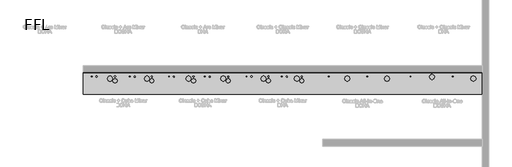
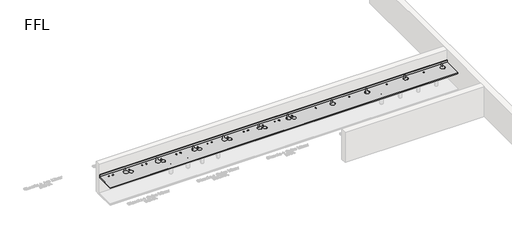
# One storey, part 2 of 13: 1 furniture element.
"""IFC4 building model written with IfcOpenShell, lengths in millimetres."""

from ifc_helpers import new_model, si_unit, frame, origin, place, context, project, spatial, polyline, circle_curve, element, save
from ifc_brep_helpers import plane_surface, revolved_surface, advanced_brep

model = new_model("IFC4")

# Units and contexts
model_context = context("Model", 3, world=origin())
ifc_project = project(units=[si_unit("LENGTHUNIT", "METRE", prefix="MILLI")], contexts=[model_context])

# Site, building, storey
site = spatial("IfcSite", under=ifc_project)
building = spatial("IfcBuilding", under=site)
storey = spatial("IfcBuildingStorey", under=building, Name="FFL", Elevation=0.0)

# Furniture
placement = place(None, origin())
element("IfcFurniture", 1, ObjectType="Counter Top : 900mm Depth", at=placement, inside=storey, context=model_context, shape_type="AdvancedBrep", body=[
    advanced_brep(
    [(-3719.7352929, 948.2393304, 900.0), (12530.2647071, 948.2393304, 900.0), (12530.2647071, 1829.1893304, 900.0), (-3719.7352929, 1829.1893304, 900.0), (-49.7352929, 1675.1893304, 900.0), (-1.7352929, 1675.1893304, 900.0), (-243.2352929, 1679.1893304, 900.0), (-208.2352929, 1679.1893304, 900.0), (749.2647071, 1675.1893304, 900.0), (797.2647071, 1675.1893304, 900.0), (555.7647071, 1679.1893304, 900.0), (590.7647071, 1679.1893304, 900.0), (1410.2647071, 1675.1893304, 900.0), (1458.2647071, 1675.1893304, 900.0), (1216.7647071, 1679.1893304, 900.0), (1251.7647071, 1679.1893304, 900.0), (2160.2647071, 1675.1893304, 900.0), (2208.2647071, 1675.1893304, 900.0), (2116.0647071, 1503.1893304, 900.0), (2252.4647071, 1503.1893304, 900.0), (1966.7647071, 1679.1893304, 900.0), (2001.7647071, 1679.1893304, 900.0), (1916.0647071, 1572.5712903, 900.0), (2052.4647071, 1572.5712903, 900.0), (2915.5968313, 1679.1893304, 900.0), (2950.5968313, 1679.1893304, 900.0), (3109.0968313, 1679.1893304, 900.0), (3157.0968313, 1679.1893304, 900.0), (3606.7647071, 1679.1893304, 900.0), (3641.7647071, 1679.1893304, 900.0), (3556.0647071, 1572.5712903, 900.0), (3692.4647071, 1572.5712903, 900.0), (3800.2647071, 1679.1893304, 900.0), (3848.2647071, 1679.1893304, 900.0), (3756.0647071, 1507.1893304, 900.0), (3892.4647071, 1507.1893304, 900.0), (4356.7647071, 1679.1893304, 900.0), (4391.7647071, 1679.1893304, 900.0), (4550.2647071, 1679.1893304, 900.0), (4598.2647071, 1679.1893304, 900.0), (4966.7647071, 1679.1893304, 900.0), (5001.7647071, 1679.1893304, 900.0), (4916.0647071, 1572.5712903, 900.0), (5052.4647071, 1572.5712903, 900.0), (5160.2647071, 1679.1893304, 900.0), (5208.2647071, 1679.1893304, 900.0), (5116.0647071, 1507.1893304, 900.0), (5252.4647071, 1507.1893304, 900.0), (6269.7647071, 1679.1893304, 900.0), (6304.7647071, 1679.1893304, 900.0), (7019.7647071, 1679.1893304, 900.0), (7054.7647071, 1679.1893304, 900.0), (6969.0647071, 1572.5712903, 900.0), (7105.4647071, 1572.5712903, 900.0), (7836.7647071, 1679.1893304, 900.0), (7871.7647071, 1679.1893304, 900.0), (8635.7647071, 1679.1893304, 900.0), (8670.7647071, 1679.1893304, 900.0), (8585.0647071, 1572.5712903, 900.0), (8721.4647071, 1572.5712903, 900.0), (12156.7647071, 1679.1893304, 900.0), (12191.7647071, 1679.1893304, 900.0), (12106.0647071, 1572.5712903, 900.0), (12242.4647071, 1572.5712903, 900.0), (11315.7647071, 1679.1893304, 900.0), (11350.7647071, 1679.1893304, 900.0), (10467.7647071, 1745.6893304, 900.0), (10502.7647071, 1745.6893304, 900.0), (10417.0647071, 1639.0712903, 900.0), (10553.4647071, 1639.0712903, 900.0), (9595.7647071, 1679.1893304, 900.0), (9630.7647071, 1679.1893304, 900.0), (-3393.2352929, 1679.1893304, 900.0), (-3358.2352929, 1679.1893304, 900.0), (-3199.7352929, 1679.1893304, 900.0), (-3151.7352929, 1679.1893304, 900.0), (-2643.2352929, 1676.4547841, 900.0), (-2608.2352929, 1676.4547841, 900.0), (-2693.9352929, 1569.8367441, 900.0), (-2557.5352929, 1569.8367441, 900.0), (-2449.7352929, 1676.4547841, 900.0), (-2401.7352929, 1676.4547841, 900.0), (-2493.9352929, 1504.4547841, 900.0), (-2357.5352929, 1504.4547841, 900.0), (-1837.2352929, 1679.1893304, 900.0), (-1802.2352929, 1679.1893304, 900.0), (-1143.2352929, 1679.1893304, 900.0), (-1108.2352929, 1679.1893304, 900.0), (-1193.9352929, 1572.5712903, 900.0), (-1057.5352929, 1572.5712903, 900.0), (-949.7352929, 1679.1893304, 900.0), (-901.7352929, 1679.1893304, 900.0), (-993.9352929, 1507.1893304, 900.0), (-857.5352929, 1507.1893304, 900.0), (505.0647071, 1572.5712903, 900.0), (641.4647071, 1572.5712903, 900.0), (705.0647071, 1503.1893304, 900.0), (841.4647071, 1503.1893304, 900.0), (-1643.7352929, 1679.1893304, 900.0), (-1595.7352929, 1679.1893304, 900.0), (12530.2647071, 1848.2393304, 860.0), (12530.2647071, 948.2393304, 860.0), (-3719.7352929, 948.2393304, 860.0), (-3719.7352929, 1848.2393304, 860.0), (-1.7352929, 1675.1893304, 860.0), (-49.7352929, 1675.1893304, 860.0), (-208.2352929, 1679.1893304, 860.0), (-243.2352929, 1679.1893304, 860.0), (797.2647071, 1675.1893304, 860.0), (749.2647071, 1675.1893304, 860.0), (590.7647071, 1679.1893304, 860.0), (555.7647071, 1679.1893304, 860.0), (1458.2647071, 1675.1893304, 860.0), (1410.2647071, 1675.1893304, 860.0), (1251.7647071, 1679.1893304, 860.0), (1216.7647071, 1679.1893304, 860.0), (2208.2647071, 1675.1893304, 860.0), (2160.2647071, 1675.1893304, 860.0), (2252.4647071, 1503.1893304, 860.0), (2116.0647071, 1503.1893304, 860.0), (2001.7647071, 1679.1893304, 860.0), (1966.7647071, 1679.1893304, 860.0), (2052.4647071, 1572.5712903, 860.0), (1916.0647071, 1572.5712903, 860.0), (2950.5968313, 1679.1893304, 860.0), (2915.5968313, 1679.1893304, 860.0), (3157.0968313, 1679.1893304, 860.0), (3109.0968313, 1679.1893304, 860.0), (3641.7647071, 1679.1893304, 860.0), (3606.7647071, 1679.1893304, 860.0), (3692.4647071, 1572.5712903, 860.0), (3556.0647071, 1572.5712903, 860.0), (3848.2647071, 1679.1893304, 860.0), (3800.2647071, 1679.1893304, 860.0), (3892.4647071, 1507.1893304, 860.0), (3756.0647071, 1507.1893304, 860.0), (4391.7647071, 1679.1893304, 860.0), (4356.7647071, 1679.1893304, 860.0), (4598.2647071, 1679.1893304, 860.0), (4550.2647071, 1679.1893304, 860.0), (5001.7647071, 1679.1893304, 860.0), (4966.7647071, 1679.1893304, 860.0), (5052.4647071, 1572.5712903, 860.0), (4916.0647071, 1572.5712903, 860.0), (5208.2647071, 1679.1893304, 860.0), (5160.2647071, 1679.1893304, 860.0), (5252.4647071, 1507.1893304, 860.0), (5116.0647071, 1507.1893304, 860.0), (6304.7647071, 1679.1893304, 860.0), (6269.7647071, 1679.1893304, 860.0), (7054.7647071, 1679.1893304, 860.0), (7019.7647071, 1679.1893304, 860.0), (7105.4647071, 1572.5712903, 860.0), (6969.0647071, 1572.5712903, 860.0), (7871.7647071, 1679.1893304, 860.0), (7836.7647071, 1679.1893304, 860.0), (8670.7647071, 1679.1893304, 860.0), (8635.7647071, 1679.1893304, 860.0), (8721.4647071, 1572.5712903, 860.0), (8585.0647071, 1572.5712903, 860.0), (12191.7647071, 1679.1893304, 860.0), (12156.7647071, 1679.1893304, 860.0), (12242.4647071, 1572.5712903, 860.0), (12106.0647071, 1572.5712903, 860.0), (11350.7647071, 1679.1893304, 860.0), (11315.7647071, 1679.1893304, 860.0), (10502.7647071, 1745.6893304, 860.0), (10467.7647071, 1745.6893304, 860.0), (10553.4647071, 1639.0712903, 860.0), (10417.0647071, 1639.0712903, 860.0), (9630.7647071, 1679.1893304, 860.0), (9595.7647071, 1679.1893304, 860.0), (-3358.2352929, 1679.1893304, 860.0), (-3393.2352929, 1679.1893304, 860.0), (-3151.7352929, 1679.1893304, 860.0), (-3199.7352929, 1679.1893304, 860.0), (-2608.2352929, 1676.4547841, 860.0), (-2643.2352929, 1676.4547841, 860.0), (-2557.5352929, 1569.8367441, 860.0), (-2693.9352929, 1569.8367441, 860.0), (-2401.7352929, 1676.4547841, 860.0), (-2449.7352929, 1676.4547841, 860.0), (-2357.5352929, 1504.4547841, 860.0), (-2493.9352929, 1504.4547841, 860.0), (-1802.2352929, 1679.1893304, 860.0), (-1837.2352929, 1679.1893304, 860.0), (-1108.2352929, 1679.1893304, 860.0), (-1143.2352929, 1679.1893304, 860.0), (-1057.5352929, 1572.5712903, 860.0), (-1193.9352929, 1572.5712903, 860.0), (-901.7352929, 1679.1893304, 860.0), (-949.7352929, 1679.1893304, 860.0), (-857.5352929, 1507.1893304, 860.0), (-993.9352929, 1507.1893304, 860.0), (641.4647071, 1572.5712903, 860.0), (505.0647071, 1572.5712903, 860.0), (841.4647071, 1503.1893304, 860.0), (705.0647071, 1503.1893304, 860.0), (-1595.7352929, 1679.1893304, 860.0), (-1643.7352929, 1679.1893304, 860.0), (-3719.7352929, 1848.2393304, 1001.6), (12530.2647071, 1848.2393304, 1001.6), (-3719.7352929, 1829.1893304, 1001.6), (12530.2647071, 1829.1893304, 1001.6)],
    [
        (0, 1),
        (1, 2),
        (2, 3),
        (3, 0),
        (4, 5, circle_curve(frame((-25.7352929, 1675.1893304, 900.0), z_axis=(0.0, 0.0, -1.0), x_axis=(-1.0, 0.0, 0.0)), 24.0)),
        (5, 4, circle_curve(frame((-25.7352929, 1675.1893304, 900.0), z_axis=(0.0, 0.0, -1.0), x_axis=(-1.0, 0.0, 0.0)), 24.0)),
        (6, 7, circle_curve(frame((-225.7352929, 1679.1893304, 900.0), z_axis=(0.0, 0.0, -1.0), x_axis=(-1.0, 0.0, 0.0)), 17.5)),
        (7, 6, circle_curve(frame((-225.7352929, 1679.1893304, 900.0), z_axis=(0.0, 0.0, -1.0), x_axis=(-1.0, 0.0, 0.0)), 17.5)),
        (8, 9, circle_curve(frame((773.2647071, 1675.1893304, 900.0), z_axis=(0.0, 0.0, -1.0), x_axis=(-1.0, 0.0, 0.0)), 24.0)),
        (9, 8, circle_curve(frame((773.2647071, 1675.1893304, 900.0), z_axis=(0.0, 0.0, -1.0), x_axis=(-1.0, 0.0, 0.0)), 24.0)),
        (10, 11, circle_curve(frame((573.2647071, 1679.1893304, 900.0), z_axis=(0.0, 0.0, -1.0), x_axis=(-1.0, 0.0, 0.0)), 17.5)),
        (11, 10, circle_curve(frame((573.2647071, 1679.1893304, 900.0), z_axis=(0.0, 0.0, -1.0), x_axis=(-1.0, 0.0, 0.0)), 17.5)),
        (12, 13, circle_curve(frame((1434.2647071, 1675.1893304, 900.0), z_axis=(0.0, 0.0, -1.0), x_axis=(-1.0, 0.0, 0.0)), 24.0)),
        (13, 12, circle_curve(frame((1434.2647071, 1675.1893304, 900.0), z_axis=(0.0, 0.0, -1.0), x_axis=(-1.0, 0.0, 0.0)), 24.0)),
        (14, 15, circle_curve(frame((1234.2647071, 1679.1893304, 900.0), z_axis=(0.0, 0.0, -1.0), x_axis=(-1.0, 0.0, 0.0)), 17.5)),
        (15, 14, circle_curve(frame((1234.2647071, 1679.1893304, 900.0), z_axis=(0.0, 0.0, -1.0), x_axis=(-1.0, 0.0, 0.0)), 17.5)),
        (16, 17, circle_curve(frame((2184.2647071, 1675.1893304, 900.0), z_axis=(0.0, 0.0, -1.0), x_axis=(-1.0, 0.0, 0.0)), 24.0)),
        (17, 16, circle_curve(frame((2184.2647071, 1675.1893304, 900.0), z_axis=(0.0, 0.0, -1.0), x_axis=(-1.0, 0.0, 0.0)), 24.0)),
        (18, 19, circle_curve(frame((2184.2647071, 1503.1893304, 900.0), z_axis=(0.0, 0.0, -1.0), x_axis=(-1.0, 0.0, 0.0)), 68.2)),
        (19, 18, circle_curve(frame((2184.2647071, 1503.1893304, 900.0), z_axis=(0.0, 0.0, -1.0), x_axis=(-1.0, 0.0, 0.0)), 68.2)),
        (20, 21, circle_curve(frame((1984.2647071, 1679.1893304, 900.0), z_axis=(0.0, 0.0, -1.0), x_axis=(-1.0, 0.0, 0.0)), 17.5)),
        (21, 20, circle_curve(frame((1984.2647071, 1679.1893304, 900.0), z_axis=(0.0, 0.0, -1.0), x_axis=(-1.0, 0.0, 0.0)), 17.5)),
        (22, 23, circle_curve(frame((1984.2647071, 1572.5712903, 900.0), z_axis=(0.0, 0.0, -1.0), x_axis=(-1.0, 0.0, 0.0)), 68.2)),
        (23, 22, circle_curve(frame((1984.2647071, 1572.5712903, 900.0), z_axis=(0.0, 0.0, -1.0), x_axis=(-1.0, 0.0, 0.0)), 68.2)),
        (24, 25, circle_curve(frame((2933.0968313, 1679.1893304, 900.0), z_axis=(0.0, 0.0, -1.0), x_axis=(-1.0, 0.0, 0.0)), 17.5)),
        (25, 24, circle_curve(frame((2933.0968313, 1679.1893304, 900.0), z_axis=(0.0, 0.0, -1.0), x_axis=(-1.0, 0.0, 0.0)), 17.5)),
        (26, 27, circle_curve(frame((3133.0968313, 1679.1893304, 900.0), z_axis=(0.0, 0.0, -1.0), x_axis=(-1.0, 0.0, 0.0)), 24.0)),
        (27, 26, circle_curve(frame((3133.0968313, 1679.1893304, 900.0), z_axis=(0.0, 0.0, -1.0), x_axis=(-1.0, 0.0, 0.0)), 24.0)),
        (28, 29, circle_curve(frame((3624.2647071, 1679.1893304, 900.0), z_axis=(0.0, 0.0, -1.0), x_axis=(-1.0, 0.0, 0.0)), 17.5)),
        (29, 28, circle_curve(frame((3624.2647071, 1679.1893304, 900.0), z_axis=(0.0, 0.0, -1.0), x_axis=(-1.0, 0.0, 0.0)), 17.5)),
        (30, 31, circle_curve(frame((3624.2647071, 1572.5712903, 900.0), z_axis=(0.0, 0.0, -1.0), x_axis=(-1.0, 0.0, 0.0)), 68.2)),
        (31, 30, circle_curve(frame((3624.2647071, 1572.5712903, 900.0), z_axis=(0.0, 0.0, -1.0), x_axis=(-1.0, 0.0, 0.0)), 68.2)),
        (32, 33, circle_curve(frame((3824.2647071, 1679.1893304, 900.0), z_axis=(0.0, 0.0, -1.0), x_axis=(-1.0, 0.0, 0.0)), 24.0)),
        (33, 32, circle_curve(frame((3824.2647071, 1679.1893304, 900.0), z_axis=(0.0, 0.0, -1.0), x_axis=(-1.0, 0.0, 0.0)), 24.0)),
        (34, 35, circle_curve(frame((3824.2647071, 1507.1893304, 900.0), z_axis=(0.0, 0.0, -1.0), x_axis=(-1.0, 0.0, 0.0)), 68.2)),
        (35, 34, circle_curve(frame((3824.2647071, 1507.1893304, 900.0), z_axis=(0.0, 0.0, -1.0), x_axis=(-1.0, 0.0, 0.0)), 68.2)),
        (36, 37, circle_curve(frame((4374.2647071, 1679.1893304, 900.0), z_axis=(0.0, 0.0, -1.0), x_axis=(-1.0, 0.0, 0.0)), 17.5)),
        (37, 36, circle_curve(frame((4374.2647071, 1679.1893304, 900.0), z_axis=(0.0, 0.0, -1.0), x_axis=(-1.0, 0.0, 0.0)), 17.5)),
        (38, 39, circle_curve(frame((4574.2647071, 1679.1893304, 900.0), z_axis=(0.0, 0.0, -1.0), x_axis=(-1.0, 0.0, 0.0)), 24.0)),
        (39, 38, circle_curve(frame((4574.2647071, 1679.1893304, 900.0), z_axis=(0.0, 0.0, -1.0), x_axis=(-1.0, 0.0, 0.0)), 24.0)),
        (40, 41, circle_curve(frame((4984.2647071, 1679.1893304, 900.0), z_axis=(0.0, 0.0, -1.0), x_axis=(-1.0, 0.0, 0.0)), 17.5)),
        (41, 40, circle_curve(frame((4984.2647071, 1679.1893304, 900.0), z_axis=(0.0, 0.0, -1.0), x_axis=(-1.0, 0.0, 0.0)), 17.5)),
        (42, 43, circle_curve(frame((4984.2647071, 1572.5712903, 900.0), z_axis=(0.0, 0.0, -1.0), x_axis=(-1.0, 0.0, 0.0)), 68.2)),
        (43, 42, circle_curve(frame((4984.2647071, 1572.5712903, 900.0), z_axis=(0.0, 0.0, -1.0), x_axis=(-1.0, 0.0, 0.0)), 68.2)),
        (44, 45, circle_curve(frame((5184.2647071, 1679.1893304, 900.0), z_axis=(0.0, 0.0, -1.0), x_axis=(-1.0, 0.0, 0.0)), 24.0)),
        (45, 44, circle_curve(frame((5184.2647071, 1679.1893304, 900.0), z_axis=(0.0, 0.0, -1.0), x_axis=(-1.0, 0.0, 0.0)), 24.0)),
        (46, 47, circle_curve(frame((5184.2647071, 1507.1893304, 900.0), z_axis=(0.0, 0.0, -1.0), x_axis=(-1.0, 0.0, 0.0)), 68.2)),
        (47, 46, circle_curve(frame((5184.2647071, 1507.1893304, 900.0), z_axis=(0.0, 0.0, -1.0), x_axis=(-1.0, 0.0, 0.0)), 68.2)),
        (48, 49, circle_curve(frame((6287.2647071, 1679.1893304, 900.0), z_axis=(0.0, 0.0, -1.0), x_axis=(-1.0, 0.0, 0.0)), 17.5)),
        (49, 48, circle_curve(frame((6287.2647071, 1679.1893304, 900.0), z_axis=(0.0, 0.0, -1.0), x_axis=(-1.0, 0.0, 0.0)), 17.5)),
        (50, 51, circle_curve(frame((7037.2647071, 1679.1893304, 900.0), z_axis=(0.0, 0.0, -1.0), x_axis=(-1.0, 0.0, 0.0)), 17.5)),
        (51, 50, circle_curve(frame((7037.2647071, 1679.1893304, 900.0), z_axis=(0.0, 0.0, -1.0), x_axis=(-1.0, 0.0, 0.0)), 17.5)),
        (52, 53, circle_curve(frame((7037.2647071, 1572.5712903, 900.0), z_axis=(0.0, 0.0, -1.0), x_axis=(-1.0, 0.0, 0.0)), 68.2)),
        (53, 52, circle_curve(frame((7037.2647071, 1572.5712903, 900.0), z_axis=(0.0, 0.0, -1.0), x_axis=(-1.0, 0.0, 0.0)), 68.2)),
        (54, 55, circle_curve(frame((7854.2647071, 1679.1893304, 900.0), z_axis=(0.0, 0.0, -1.0), x_axis=(-1.0, 0.0, 0.0)), 17.5)),
        (55, 54, circle_curve(frame((7854.2647071, 1679.1893304, 900.0), z_axis=(0.0, 0.0, -1.0), x_axis=(-1.0, 0.0, 0.0)), 17.5)),
        (56, 57, circle_curve(frame((8653.2647071, 1679.1893304, 900.0), z_axis=(0.0, 0.0, -1.0), x_axis=(-1.0, 0.0, 0.0)), 17.5)),
        (57, 56, circle_curve(frame((8653.2647071, 1679.1893304, 900.0), z_axis=(0.0, 0.0, -1.0), x_axis=(-1.0, 0.0, 0.0)), 17.5)),
        (58, 59, circle_curve(frame((8653.2647071, 1572.5712903, 900.0), z_axis=(0.0, 0.0, -1.0), x_axis=(-1.0, 0.0, 0.0)), 68.2)),
        (59, 58, circle_curve(frame((8653.2647071, 1572.5712903, 900.0), z_axis=(0.0, 0.0, -1.0), x_axis=(-1.0, 0.0, 0.0)), 68.2)),
        (60, 61, circle_curve(frame((12174.2647071, 1679.1893304, 900.0), z_axis=(0.0, 0.0, -1.0), x_axis=(-1.0, 0.0, 0.0)), 17.5)),
        (61, 60, circle_curve(frame((12174.2647071, 1679.1893304, 900.0), z_axis=(0.0, 0.0, -1.0), x_axis=(-1.0, 0.0, 0.0)), 17.5)),
        (62, 63, circle_curve(frame((12174.2647071, 1572.5712903, 900.0), z_axis=(0.0, 0.0, -1.0), x_axis=(-1.0, 0.0, 0.0)), 68.2)),
        (63, 62, circle_curve(frame((12174.2647071, 1572.5712903, 900.0), z_axis=(0.0, 0.0, -1.0), x_axis=(-1.0, 0.0, 0.0)), 68.2)),
        (64, 65, circle_curve(frame((11333.2647071, 1679.1893304, 900.0), z_axis=(0.0, 0.0, -1.0), x_axis=(-1.0, 0.0, 0.0)), 17.5)),
        (65, 64, circle_curve(frame((11333.2647071, 1679.1893304, 900.0), z_axis=(0.0, 0.0, -1.0), x_axis=(-1.0, 0.0, 0.0)), 17.5)),
        (66, 67, circle_curve(frame((10485.2647071, 1745.6893304, 900.0), z_axis=(0.0, 0.0, -1.0), x_axis=(-1.0, 0.0, 0.0)), 17.5)),
        (67, 66, circle_curve(frame((10485.2647071, 1745.6893304, 900.0), z_axis=(0.0, 0.0, -1.0), x_axis=(-1.0, 0.0, 0.0)), 17.5)),
        (68, 69, circle_curve(frame((10485.2647071, 1639.0712903, 900.0), z_axis=(0.0, 0.0, -1.0), x_axis=(-1.0, 0.0, 0.0)), 68.2)),
        (69, 68, circle_curve(frame((10485.2647071, 1639.0712903, 900.0), z_axis=(0.0, 0.0, -1.0), x_axis=(-1.0, 0.0, 0.0)), 68.2)),
        (70, 71, circle_curve(frame((9613.2647071, 1679.1893304, 900.0), z_axis=(0.0, 0.0, -1.0), x_axis=(-1.0, 0.0, 0.0)), 17.5)),
        (71, 70, circle_curve(frame((9613.2647071, 1679.1893304, 900.0), z_axis=(0.0, 0.0, -1.0), x_axis=(-1.0, 0.0, 0.0)), 17.5)),
        (72, 73, circle_curve(frame((-3375.7352929, 1679.1893304, 900.0), z_axis=(0.0, 0.0, -1.0), x_axis=(-1.0, 0.0, 0.0)), 17.5)),
        (73, 72, circle_curve(frame((-3375.7352929, 1679.1893304, 900.0), z_axis=(0.0, 0.0, -1.0), x_axis=(-1.0, 0.0, 0.0)), 17.5)),
        (74, 75, circle_curve(frame((-3175.7352929, 1679.1893304, 900.0), z_axis=(0.0, 0.0, -1.0), x_axis=(-1.0, 0.0, 0.0)), 24.0)),
        (75, 74, circle_curve(frame((-3175.7352929, 1679.1893304, 900.0), z_axis=(0.0, 0.0, -1.0), x_axis=(-1.0, 0.0, 0.0)), 24.0)),
        (76, 77, circle_curve(frame((-2625.7352929, 1676.4547841, 900.0), z_axis=(0.0, 0.0, -1.0), x_axis=(-1.0, 0.0, 0.0)), 17.5)),
        (77, 76, circle_curve(frame((-2625.7352929, 1676.4547841, 900.0), z_axis=(0.0, 0.0, -1.0), x_axis=(-1.0, 0.0, 0.0)), 17.5)),
        (78, 79, circle_curve(frame((-2625.7352929, 1569.8367441, 900.0), z_axis=(0.0, 0.0, -1.0), x_axis=(-1.0, 0.0, 0.0)), 68.2)),
        (79, 78, circle_curve(frame((-2625.7352929, 1569.8367441, 900.0), z_axis=(0.0, 0.0, -1.0), x_axis=(-1.0, 0.0, 0.0)), 68.2)),
        (80, 81, circle_curve(frame((-2425.7352929, 1676.4547841, 900.0), z_axis=(0.0, 0.0, -1.0), x_axis=(-1.0, 0.0, 0.0)), 24.0)),
        (81, 80, circle_curve(frame((-2425.7352929, 1676.4547841, 900.0), z_axis=(0.0, 0.0, -1.0), x_axis=(-1.0, 0.0, 0.0)), 24.0)),
        (82, 83, circle_curve(frame((-2425.7352929, 1504.4547841, 900.0), z_axis=(0.0, 0.0, -1.0), x_axis=(-1.0, 0.0, 0.0)), 68.2)),
        (83, 82, circle_curve(frame((-2425.7352929, 1504.4547841, 900.0), z_axis=(0.0, 0.0, -1.0), x_axis=(-1.0, 0.0, 0.0)), 68.2)),
        (84, 85, circle_curve(frame((-1819.7352929, 1679.1893304, 900.0), z_axis=(0.0, 0.0, -1.0), x_axis=(-1.0, 0.0, 0.0)), 17.5)),
        (85, 84, circle_curve(frame((-1819.7352929, 1679.1893304, 900.0), z_axis=(0.0, 0.0, -1.0), x_axis=(-1.0, 0.0, 0.0)), 17.5)),
        (86, 87, circle_curve(frame((-1125.7352929, 1679.1893304, 900.0), z_axis=(0.0, 0.0, -1.0), x_axis=(-1.0, 0.0, 0.0)), 17.5)),
        (87, 86, circle_curve(frame((-1125.7352929, 1679.1893304, 900.0), z_axis=(0.0, 0.0, -1.0), x_axis=(-1.0, 0.0, 0.0)), 17.5)),
        (88, 89, circle_curve(frame((-1125.7352929, 1572.5712903, 900.0), z_axis=(0.0, 0.0, -1.0), x_axis=(-1.0, 0.0, 0.0)), 68.2)),
        (89, 88, circle_curve(frame((-1125.7352929, 1572.5712903, 900.0), z_axis=(0.0, 0.0, -1.0), x_axis=(-1.0, 0.0, 0.0)), 68.2)),
        (90, 91, circle_curve(frame((-925.7352929, 1679.1893304, 900.0), z_axis=(0.0, 0.0, -1.0), x_axis=(-1.0, 0.0, 0.0)), 24.0)),
        (91, 90, circle_curve(frame((-925.7352929, 1679.1893304, 900.0), z_axis=(0.0, 0.0, -1.0), x_axis=(-1.0, 0.0, 0.0)), 24.0)),
        (92, 93, circle_curve(frame((-925.7352929, 1507.1893304, 900.0), z_axis=(0.0, 0.0, -1.0), x_axis=(-1.0, 0.0, 0.0)), 68.2)),
        (93, 92, circle_curve(frame((-925.7352929, 1507.1893304, 900.0), z_axis=(0.0, 0.0, -1.0), x_axis=(-1.0, 0.0, 0.0)), 68.2)),
        (94, 95, circle_curve(frame((573.2647071, 1572.5712903, 900.0), z_axis=(0.0, 0.0, -1.0), x_axis=(-1.0, 0.0, 0.0)), 68.2)),
        (95, 94, circle_curve(frame((573.2647071, 1572.5712903, 900.0), z_axis=(0.0, 0.0, -1.0), x_axis=(-1.0, 0.0, 0.0)), 68.2)),
        (96, 97, circle_curve(frame((773.2647071, 1503.1893304, 900.0), z_axis=(0.0, 0.0, -1.0), x_axis=(-1.0, 0.0, 0.0)), 68.2)),
        (97, 96, circle_curve(frame((773.2647071, 1503.1893304, 900.0), z_axis=(0.0, 0.0, -1.0), x_axis=(-1.0, 0.0, 0.0)), 68.2)),
        (98, 99, circle_curve(frame((-1619.7352929, 1679.1893304, 900.0), z_axis=(0.0, 0.0, -1.0), x_axis=(-1.0, 0.0, 0.0)), 24.0)),
        (99, 98, circle_curve(frame((-1619.7352929, 1679.1893304, 900.0), z_axis=(0.0, 0.0, -1.0), x_axis=(-1.0, 0.0, 0.0)), 24.0)),
        (100, 101),
        (101, 102),
        (102, 103),
        (103, 100),
        (104, 105, circle_curve(frame((-25.7352929, 1675.1893304, 860.0), z_axis=(0.0, 0.0, 1.0), x_axis=(-1.0, 0.0, 0.0)), 24.0)),
        (105, 104, circle_curve(frame((-25.7352929, 1675.1893304, 860.0), z_axis=(0.0, 0.0, 1.0), x_axis=(-1.0, 0.0, 0.0)), 24.0)),
        (106, 107, circle_curve(frame((-225.7352929, 1679.1893304, 860.0), z_axis=(0.0, 0.0, 1.0), x_axis=(-1.0, 0.0, 0.0)), 17.5)),
        (107, 106, circle_curve(frame((-225.7352929, 1679.1893304, 860.0), z_axis=(0.0, 0.0, 1.0), x_axis=(-1.0, 0.0, 0.0)), 17.5)),
        (108, 109, circle_curve(frame((773.2647071, 1675.1893304, 860.0), z_axis=(0.0, 0.0, 1.0), x_axis=(-1.0, 0.0, 0.0)), 24.0)),
        (109, 108, circle_curve(frame((773.2647071, 1675.1893304, 860.0), z_axis=(0.0, 0.0, 1.0), x_axis=(-1.0, 0.0, 0.0)), 24.0)),
        (110, 111, circle_curve(frame((573.2647071, 1679.1893304, 860.0), z_axis=(0.0, 0.0, 1.0), x_axis=(-1.0, 0.0, 0.0)), 17.5)),
        (111, 110, circle_curve(frame((573.2647071, 1679.1893304, 860.0), z_axis=(0.0, 0.0, 1.0), x_axis=(-1.0, 0.0, 0.0)), 17.5)),
        (112, 113, circle_curve(frame((1434.2647071, 1675.1893304, 860.0), z_axis=(0.0, 0.0, 1.0), x_axis=(-1.0, 0.0, 0.0)), 24.0)),
        (113, 112, circle_curve(frame((1434.2647071, 1675.1893304, 860.0), z_axis=(0.0, 0.0, 1.0), x_axis=(-1.0, 0.0, 0.0)), 24.0)),
        (114, 115, circle_curve(frame((1234.2647071, 1679.1893304, 860.0), z_axis=(0.0, 0.0, 1.0), x_axis=(-1.0, 0.0, 0.0)), 17.5)),
        (115, 114, circle_curve(frame((1234.2647071, 1679.1893304, 860.0), z_axis=(0.0, 0.0, 1.0), x_axis=(-1.0, 0.0, 0.0)), 17.5)),
        (116, 117, circle_curve(frame((2184.2647071, 1675.1893304, 860.0), z_axis=(0.0, 0.0, 1.0), x_axis=(-1.0, 0.0, 0.0)), 24.0)),
        (117, 116, circle_curve(frame((2184.2647071, 1675.1893304, 860.0), z_axis=(0.0, 0.0, 1.0), x_axis=(-1.0, 0.0, 0.0)), 24.0)),
        (118, 119, circle_curve(frame((2184.2647071, 1503.1893304, 860.0), z_axis=(0.0, 0.0, 1.0), x_axis=(-1.0, 0.0, 0.0)), 68.2)),
        (119, 118, circle_curve(frame((2184.2647071, 1503.1893304, 860.0), z_axis=(0.0, 0.0, 1.0), x_axis=(-1.0, 0.0, 0.0)), 68.2)),
        (120, 121, circle_curve(frame((1984.2647071, 1679.1893304, 860.0), z_axis=(0.0, 0.0, 1.0), x_axis=(-1.0, 0.0, 0.0)), 17.5)),
        (121, 120, circle_curve(frame((1984.2647071, 1679.1893304, 860.0), z_axis=(0.0, 0.0, 1.0), x_axis=(-1.0, 0.0, 0.0)), 17.5)),
        (122, 123, circle_curve(frame((1984.2647071, 1572.5712903, 860.0), z_axis=(0.0, 0.0, 1.0), x_axis=(-1.0, 0.0, 0.0)), 68.2)),
        (123, 122, circle_curve(frame((1984.2647071, 1572.5712903, 860.0), z_axis=(0.0, 0.0, 1.0), x_axis=(-1.0, 0.0, 0.0)), 68.2)),
        (124, 125, circle_curve(frame((2933.0968313, 1679.1893304, 860.0), z_axis=(0.0, 0.0, 1.0), x_axis=(-1.0, 0.0, 0.0)), 17.5)),
        (125, 124, circle_curve(frame((2933.0968313, 1679.1893304, 860.0), z_axis=(0.0, 0.0, 1.0), x_axis=(-1.0, 0.0, 0.0)), 17.5)),
        (126, 127, circle_curve(frame((3133.0968313, 1679.1893304, 860.0), z_axis=(0.0, 0.0, 1.0), x_axis=(-1.0, 0.0, 0.0)), 24.0)),
        (127, 126, circle_curve(frame((3133.0968313, 1679.1893304, 860.0), z_axis=(0.0, 0.0, 1.0), x_axis=(-1.0, 0.0, 0.0)), 24.0)),
        (128, 129, circle_curve(frame((3624.2647071, 1679.1893304, 860.0), z_axis=(0.0, 0.0, 1.0), x_axis=(-1.0, 0.0, 0.0)), 17.5)),
        (129, 128, circle_curve(frame((3624.2647071, 1679.1893304, 860.0), z_axis=(0.0, 0.0, 1.0), x_axis=(-1.0, 0.0, 0.0)), 17.5)),
        (130, 131, circle_curve(frame((3624.2647071, 1572.5712903, 860.0), z_axis=(0.0, 0.0, 1.0), x_axis=(-1.0, 0.0, 0.0)), 68.2)),
        (131, 130, circle_curve(frame((3624.2647071, 1572.5712903, 860.0), z_axis=(0.0, 0.0, 1.0), x_axis=(-1.0, 0.0, 0.0)), 68.2)),
        (132, 133, circle_curve(frame((3824.2647071, 1679.1893304, 860.0), z_axis=(0.0, 0.0, 1.0), x_axis=(-1.0, 0.0, 0.0)), 24.0)),
        (133, 132, circle_curve(frame((3824.2647071, 1679.1893304, 860.0), z_axis=(0.0, 0.0, 1.0), x_axis=(-1.0, 0.0, 0.0)), 24.0)),
        (134, 135, circle_curve(frame((3824.2647071, 1507.1893304, 860.0), z_axis=(0.0, 0.0, 1.0), x_axis=(-1.0, 0.0, 0.0)), 68.2)),
        (135, 134, circle_curve(frame((3824.2647071, 1507.1893304, 860.0), z_axis=(0.0, 0.0, 1.0), x_axis=(-1.0, 0.0, 0.0)), 68.2)),
        (136, 137, circle_curve(frame((4374.2647071, 1679.1893304, 860.0), z_axis=(0.0, 0.0, 1.0), x_axis=(-1.0, 0.0, 0.0)), 17.5)),
        (137, 136, circle_curve(frame((4374.2647071, 1679.1893304, 860.0), z_axis=(0.0, 0.0, 1.0), x_axis=(-1.0, 0.0, 0.0)), 17.5)),
        (138, 139, circle_curve(frame((4574.2647071, 1679.1893304, 860.0), z_axis=(0.0, 0.0, 1.0), x_axis=(-1.0, 0.0, 0.0)), 24.0)),
        (139, 138, circle_curve(frame((4574.2647071, 1679.1893304, 860.0), z_axis=(0.0, 0.0, 1.0), x_axis=(-1.0, 0.0, 0.0)), 24.0)),
        (140, 141, circle_curve(frame((4984.2647071, 1679.1893304, 860.0), z_axis=(0.0, 0.0, 1.0), x_axis=(-1.0, 0.0, 0.0)), 17.5)),
        (141, 140, circle_curve(frame((4984.2647071, 1679.1893304, 860.0), z_axis=(0.0, 0.0, 1.0), x_axis=(-1.0, 0.0, 0.0)), 17.5)),
        (142, 143, circle_curve(frame((4984.2647071, 1572.5712903, 860.0), z_axis=(0.0, 0.0, 1.0), x_axis=(-1.0, 0.0, 0.0)), 68.2)),
        (143, 142, circle_curve(frame((4984.2647071, 1572.5712903, 860.0), z_axis=(0.0, 0.0, 1.0), x_axis=(-1.0, 0.0, 0.0)), 68.2)),
        (144, 145, circle_curve(frame((5184.2647071, 1679.1893304, 860.0), z_axis=(0.0, 0.0, 1.0), x_axis=(-1.0, 0.0, 0.0)), 24.0)),
        (145, 144, circle_curve(frame((5184.2647071, 1679.1893304, 860.0), z_axis=(0.0, 0.0, 1.0), x_axis=(-1.0, 0.0, 0.0)), 24.0)),
        (146, 147, circle_curve(frame((5184.2647071, 1507.1893304, 860.0), z_axis=(0.0, 0.0, 1.0), x_axis=(-1.0, 0.0, 0.0)), 68.2)),
        (147, 146, circle_curve(frame((5184.2647071, 1507.1893304, 860.0), z_axis=(0.0, 0.0, 1.0), x_axis=(-1.0, 0.0, 0.0)), 68.2)),
        (148, 149, circle_curve(frame((6287.2647071, 1679.1893304, 860.0), z_axis=(0.0, 0.0, 1.0), x_axis=(-1.0, 0.0, 0.0)), 17.5)),
        (149, 148, circle_curve(frame((6287.2647071, 1679.1893304, 860.0), z_axis=(0.0, 0.0, 1.0), x_axis=(-1.0, 0.0, 0.0)), 17.5)),
        (150, 151, circle_curve(frame((7037.2647071, 1679.1893304, 860.0), z_axis=(0.0, 0.0, 1.0), x_axis=(-1.0, 0.0, 0.0)), 17.5)),
        (151, 150, circle_curve(frame((7037.2647071, 1679.1893304, 860.0), z_axis=(0.0, 0.0, 1.0), x_axis=(-1.0, 0.0, 0.0)), 17.5)),
        (152, 153, circle_curve(frame((7037.2647071, 1572.5712903, 860.0), z_axis=(0.0, 0.0, 1.0), x_axis=(-1.0, 0.0, 0.0)), 68.2)),
        (153, 152, circle_curve(frame((7037.2647071, 1572.5712903, 860.0), z_axis=(0.0, 0.0, 1.0), x_axis=(-1.0, 0.0, 0.0)), 68.2)),
        (154, 155, circle_curve(frame((7854.2647071, 1679.1893304, 860.0), z_axis=(0.0, 0.0, 1.0), x_axis=(-1.0, 0.0, 0.0)), 17.5)),
        (155, 154, circle_curve(frame((7854.2647071, 1679.1893304, 860.0), z_axis=(0.0, 0.0, 1.0), x_axis=(-1.0, 0.0, 0.0)), 17.5)),
        (156, 157, circle_curve(frame((8653.2647071, 1679.1893304, 860.0), z_axis=(0.0, 0.0, 1.0), x_axis=(-1.0, 0.0, 0.0)), 17.5)),
        (157, 156, circle_curve(frame((8653.2647071, 1679.1893304, 860.0), z_axis=(0.0, 0.0, 1.0), x_axis=(-1.0, 0.0, 0.0)), 17.5)),
        (158, 159, circle_curve(frame((8653.2647071, 1572.5712903, 860.0), z_axis=(0.0, 0.0, 1.0), x_axis=(-1.0, 0.0, 0.0)), 68.2)),
        (159, 158, circle_curve(frame((8653.2647071, 1572.5712903, 860.0), z_axis=(0.0, 0.0, 1.0), x_axis=(-1.0, 0.0, 0.0)), 68.2)),
        (160, 161, circle_curve(frame((12174.2647071, 1679.1893304, 860.0), z_axis=(0.0, 0.0, 1.0), x_axis=(-1.0, 0.0, 0.0)), 17.5)),
        (161, 160, circle_curve(frame((12174.2647071, 1679.1893304, 860.0), z_axis=(0.0, 0.0, 1.0), x_axis=(-1.0, 0.0, 0.0)), 17.5)),
        (162, 163, circle_curve(frame((12174.2647071, 1572.5712903, 860.0), z_axis=(0.0, 0.0, 1.0), x_axis=(-1.0, 0.0, 0.0)), 68.2)),
        (163, 162, circle_curve(frame((12174.2647071, 1572.5712903, 860.0), z_axis=(0.0, 0.0, 1.0), x_axis=(-1.0, 0.0, 0.0)), 68.2)),
        (164, 165, circle_curve(frame((11333.2647071, 1679.1893304, 860.0), z_axis=(0.0, 0.0, 1.0), x_axis=(-1.0, 0.0, 0.0)), 17.5)),
        (165, 164, circle_curve(frame((11333.2647071, 1679.1893304, 860.0), z_axis=(0.0, 0.0, 1.0), x_axis=(-1.0, 0.0, 0.0)), 17.5)),
        (166, 167, circle_curve(frame((10485.2647071, 1745.6893304, 860.0), z_axis=(0.0, 0.0, 1.0), x_axis=(-1.0, 0.0, 0.0)), 17.5)),
        (167, 166, circle_curve(frame((10485.2647071, 1745.6893304, 860.0), z_axis=(0.0, 0.0, 1.0), x_axis=(-1.0, 0.0, 0.0)), 17.5)),
        (168, 169, circle_curve(frame((10485.2647071, 1639.0712903, 860.0), z_axis=(0.0, 0.0, 1.0), x_axis=(-1.0, 0.0, 0.0)), 68.2)),
        (169, 168, circle_curve(frame((10485.2647071, 1639.0712903, 860.0), z_axis=(0.0, 0.0, 1.0), x_axis=(-1.0, 0.0, 0.0)), 68.2)),
        (170, 171, circle_curve(frame((9613.2647071, 1679.1893304, 860.0), z_axis=(0.0, 0.0, 1.0), x_axis=(-1.0, 0.0, 0.0)), 17.5)),
        (171, 170, circle_curve(frame((9613.2647071, 1679.1893304, 860.0), z_axis=(0.0, 0.0, 1.0), x_axis=(-1.0, 0.0, 0.0)), 17.5)),
        (172, 173, circle_curve(frame((-3375.7352929, 1679.1893304, 860.0), z_axis=(0.0, 0.0, 1.0), x_axis=(-1.0, 0.0, 0.0)), 17.5)),
        (173, 172, circle_curve(frame((-3375.7352929, 1679.1893304, 860.0), z_axis=(0.0, 0.0, 1.0), x_axis=(-1.0, 0.0, 0.0)), 17.5)),
        (174, 175, circle_curve(frame((-3175.7352929, 1679.1893304, 860.0), z_axis=(0.0, 0.0, 1.0), x_axis=(-1.0, 0.0, 0.0)), 24.0)),
        (175, 174, circle_curve(frame((-3175.7352929, 1679.1893304, 860.0), z_axis=(0.0, 0.0, 1.0), x_axis=(-1.0, 0.0, 0.0)), 24.0)),
        (176, 177, circle_curve(frame((-2625.7352929, 1676.4547841, 860.0), z_axis=(0.0, 0.0, 1.0), x_axis=(-1.0, 0.0, 0.0)), 17.5)),
        (177, 176, circle_curve(frame((-2625.7352929, 1676.4547841, 860.0), z_axis=(0.0, 0.0, 1.0), x_axis=(-1.0, 0.0, 0.0)), 17.5)),
        (178, 179, circle_curve(frame((-2625.7352929, 1569.8367441, 860.0), z_axis=(0.0, 0.0, 1.0), x_axis=(-1.0, 0.0, 0.0)), 68.2)),
        (179, 178, circle_curve(frame((-2625.7352929, 1569.8367441, 860.0), z_axis=(0.0, 0.0, 1.0), x_axis=(-1.0, 0.0, 0.0)), 68.2)),
        (180, 181, circle_curve(frame((-2425.7352929, 1676.4547841, 860.0), z_axis=(0.0, 0.0, 1.0), x_axis=(-1.0, 0.0, 0.0)), 24.0)),
        (181, 180, circle_curve(frame((-2425.7352929, 1676.4547841, 860.0), z_axis=(0.0, 0.0, 1.0), x_axis=(-1.0, 0.0, 0.0)), 24.0)),
        (182, 183, circle_curve(frame((-2425.7352929, 1504.4547841, 860.0), z_axis=(0.0, 0.0, 1.0), x_axis=(-1.0, 0.0, 0.0)), 68.2)),
        (183, 182, circle_curve(frame((-2425.7352929, 1504.4547841, 860.0), z_axis=(0.0, 0.0, 1.0), x_axis=(-1.0, 0.0, 0.0)), 68.2)),
        (184, 185, circle_curve(frame((-1819.7352929, 1679.1893304, 860.0), z_axis=(0.0, 0.0, 1.0), x_axis=(-1.0, 0.0, 0.0)), 17.5)),
        (185, 184, circle_curve(frame((-1819.7352929, 1679.1893304, 860.0), z_axis=(0.0, 0.0, 1.0), x_axis=(-1.0, 0.0, 0.0)), 17.5)),
        (186, 187, circle_curve(frame((-1125.7352929, 1679.1893304, 860.0), z_axis=(0.0, 0.0, 1.0), x_axis=(-1.0, 0.0, 0.0)), 17.5)),
        (187, 186, circle_curve(frame((-1125.7352929, 1679.1893304, 860.0), z_axis=(0.0, 0.0, 1.0), x_axis=(-1.0, 0.0, 0.0)), 17.5)),
        (188, 189, circle_curve(frame((-1125.7352929, 1572.5712903, 860.0), z_axis=(0.0, 0.0, 1.0), x_axis=(-1.0, 0.0, 0.0)), 68.2)),
        (189, 188, circle_curve(frame((-1125.7352929, 1572.5712903, 860.0), z_axis=(0.0, 0.0, 1.0), x_axis=(-1.0, 0.0, 0.0)), 68.2)),
        (190, 191, circle_curve(frame((-925.7352929, 1679.1893304, 860.0), z_axis=(0.0, 0.0, 1.0), x_axis=(-1.0, 0.0, 0.0)), 24.0)),
        (191, 190, circle_curve(frame((-925.7352929, 1679.1893304, 860.0), z_axis=(0.0, 0.0, 1.0), x_axis=(-1.0, 0.0, 0.0)), 24.0)),
        (192, 193, circle_curve(frame((-925.7352929, 1507.1893304, 860.0), z_axis=(0.0, 0.0, 1.0), x_axis=(-1.0, 0.0, 0.0)), 68.2)),
        (193, 192, circle_curve(frame((-925.7352929, 1507.1893304, 860.0), z_axis=(0.0, 0.0, 1.0), x_axis=(-1.0, 0.0, 0.0)), 68.2)),
        (194, 195, circle_curve(frame((573.2647071, 1572.5712903, 860.0), z_axis=(0.0, 0.0, 1.0), x_axis=(-1.0, 0.0, 0.0)), 68.2)),
        (195, 194, circle_curve(frame((573.2647071, 1572.5712903, 860.0), z_axis=(0.0, 0.0, 1.0), x_axis=(-1.0, 0.0, 0.0)), 68.2)),
        (196, 197, circle_curve(frame((773.2647071, 1503.1893304, 860.0), z_axis=(0.0, 0.0, 1.0), x_axis=(-1.0, 0.0, 0.0)), 68.2)),
        (197, 196, circle_curve(frame((773.2647071, 1503.1893304, 860.0), z_axis=(0.0, 0.0, 1.0), x_axis=(-1.0, 0.0, 0.0)), 68.2)),
        (198, 199, circle_curve(frame((-1619.7352929, 1679.1893304, 860.0), z_axis=(0.0, 0.0, 1.0), x_axis=(-1.0, 0.0, 0.0)), 24.0)),
        (199, 198, circle_curve(frame((-1619.7352929, 1679.1893304, 860.0), z_axis=(0.0, 0.0, 1.0), x_axis=(-1.0, 0.0, 0.0)), 24.0)),
        (103, 200),
        (200, 201),
        (201, 100),
        (3, 202),
        (202, 200),
        (102, 0),
        (101, 1),
        (201, 203),
        (203, 2),
        (202, 203),
        (104, 5),
        (4, 105),
        (106, 7),
        (6, 107),
        (108, 9),
        (8, 109),
        (196, 97),
        (96, 197),
        (110, 11),
        (10, 111),
        (194, 95),
        (94, 195),
        (112, 13),
        (12, 113),
        (114, 15),
        (14, 115),
        (116, 17),
        (16, 117),
        (118, 19),
        (18, 119),
        (120, 21),
        (20, 121),
        (122, 23),
        (22, 123),
        (124, 25),
        (24, 125),
        (126, 27),
        (26, 127),
        (128, 29),
        (28, 129),
        (130, 31),
        (30, 131),
        (132, 33),
        (32, 133),
        (134, 35),
        (34, 135),
        (136, 37),
        (36, 137),
        (138, 39),
        (38, 139),
        (140, 41),
        (40, 141),
        (142, 43),
        (42, 143),
        (144, 45),
        (44, 145),
        (146, 47),
        (46, 147),
        (148, 49),
        (48, 149),
        (150, 51),
        (50, 151),
        (152, 53),
        (52, 153),
        (154, 55),
        (54, 155),
        (156, 57),
        (56, 157),
        (158, 59),
        (58, 159),
        (160, 61),
        (60, 161),
        (162, 63),
        (62, 163),
        (164, 65),
        (64, 165),
        (166, 67),
        (66, 167),
        (168, 69),
        (68, 169),
        (170, 71),
        (70, 171),
        (172, 73),
        (72, 173),
        (174, 75),
        (74, 175),
        (176, 77),
        (76, 177),
        (178, 79),
        (78, 179),
        (180, 81),
        (80, 181),
        (182, 83),
        (82, 183),
        (184, 85),
        (84, 185),
        (186, 87),
        (86, 187),
        (188, 89),
        (88, 189),
        (190, 91),
        (90, 191),
        (192, 93),
        (92, 193),
        (198, 99),
        (98, 199),
    ],
    [
        plane_surface(frame((-3719.7352929, 1848.2393304, 900.0), z_axis=(0.0, 0.0, 1.0), x_axis=(-1.0, 0.0, 0.0))),
        plane_surface(frame((-3719.7352929, 1848.2393304, 860.0), z_axis=(0.0, 0.0, -1.0), x_axis=(1.0, 0.0, 0.0))),
        plane_surface(frame((12530.2647071, 1848.2393304, 900.0), z_axis=(0.0, 1.0, 0.0), x_axis=(0.0, 0.0, -1.0))),
        plane_surface(frame((-3719.7352929, 1848.2393304, 900.0), z_axis=(-1.0, 0.0, 0.0), x_axis=(0.0, 0.0, -1.0))),
        plane_surface(frame((-3719.7352929, 948.2393304, 900.0), z_axis=(0.0, -1.0, 0.0), x_axis=(0.0, 0.0, -1.0))),
        plane_surface(frame((12530.2647071, 948.2393304, 900.0), z_axis=(1.0, 0.0, 0.0), x_axis=(0.0, 0.0, -1.0))),
        plane_surface(frame((-3719.7352929, 1848.2393304, 1001.6), z_axis=(0.0, 0.0, 1.0), x_axis=(0.0, -1.0, 0.0))),
        plane_surface(frame((-3719.7352929, 1829.1893304, 1001.6), z_axis=(0.0, -1.0, 0.0), x_axis=(0.0, 0.0, -1.0))),
        revolved_surface(polyline([(-49.735292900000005, 1675.1893304, 900.0), (-49.735292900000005, 1675.1893304, 860.0)]), (-25.7352929, 1675.1893304, 850.0), (0.0, 0.0, 1.0)),
        revolved_surface(polyline([(-243.2352929, 1679.1893304, 900.0), (-243.2352929, 1679.1893304, 860.0)]), (-225.7352929, 1679.1893304, 795.0), (0.0, 0.0, 1.0)),
        revolved_surface(polyline([(749.2647071, 1675.1893304, 900.0), (749.2647071, 1675.1893304, 860.0)]), (773.2647071, 1675.1893304, 850.0), (0.0, 0.0, 1.0)),
        revolved_surface(polyline([(705.0647071, 1503.1893304, 900.0), (705.0647071, 1503.1893304, 860.0)]), (773.2647071, 1503.1893304, 850.0), (0.0, 0.0, 1.0)),
        revolved_surface(polyline([(555.7647071, 1679.1893304, 900.0), (555.7647071, 1679.1893304, 860.0)]), (573.2647071, 1679.1893304, 795.0), (0.0, 0.0, 1.0)),
        revolved_surface(polyline([(505.0647071, 1572.5712903, 900.0), (505.0647071, 1572.5712903, 860.0)]), (573.2647071, 1572.5712903, 795.0), (0.0, 0.0, 1.0)),
        revolved_surface(polyline([(1410.2647071, 1675.1893304, 900.0), (1410.2647071, 1675.1893304, 860.0)]), (1434.2647071, 1675.1893304, 850.0), (0.0, 0.0, 1.0)),
        revolved_surface(polyline([(1216.7647071, 1679.1893304, 900.0), (1216.7647071, 1679.1893304, 860.0)]), (1234.2647071, 1679.1893304, 795.0), (0.0, 0.0, 1.0)),
        revolved_surface(polyline([(2160.2647071, 1675.1893304, 900.0), (2160.2647071, 1675.1893304, 860.0)]), (2184.2647071, 1675.1893304, 850.0), (0.0, 0.0, 1.0)),
        revolved_surface(polyline([(2116.0647071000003, 1503.1893304, 900.0), (2116.0647071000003, 1503.1893304, 860.0)]), (2184.2647071, 1503.1893304, 850.0), (0.0, 0.0, 1.0)),
        revolved_surface(polyline([(1966.7647071, 1679.1893304, 900.0), (1966.7647071, 1679.1893304, 860.0)]), (1984.2647071, 1679.1893304, 795.0), (0.0, 0.0, 1.0)),
        revolved_surface(polyline([(1916.0647070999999, 1572.5712903, 900.0), (1916.0647070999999, 1572.5712903, 860.0)]), (1984.2647071, 1572.5712903, 795.0), (0.0, 0.0, 1.0)),
        revolved_surface(polyline([(2915.5968313, 1679.1893304, 900.0), (2915.5968313, 1679.1893304, 860.0)]), (2933.0968313, 1679.1893304, 795.0), (0.0, 0.0, 1.0)),
        revolved_surface(polyline([(3109.0968313, 1679.1893304, 900.0), (3109.0968313, 1679.1893304, 860.0)]), (3133.0968313, 1679.1893304, 850.0), (0.0, 0.0, 1.0)),
        revolved_surface(polyline([(3606.7647071, 1679.1893304, 900.0), (3606.7647071, 1679.1893304, 860.0)]), (3624.2647071, 1679.1893304, 795.0), (0.0, 0.0, 1.0)),
        revolved_surface(polyline([(3556.0647071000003, 1572.5712903, 900.0), (3556.0647071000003, 1572.5712903, 860.0)]), (3624.2647071, 1572.5712903, 795.0), (0.0, 0.0, 1.0)),
        revolved_surface(polyline([(3800.2647071, 1679.1893304, 900.0), (3800.2647071, 1679.1893304, 860.0)]), (3824.2647071, 1679.1893304, 850.0), (0.0, 0.0, 1.0)),
        revolved_surface(polyline([(3756.0647071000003, 1507.1893304, 900.0), (3756.0647071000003, 1507.1893304, 860.0)]), (3824.2647071, 1507.1893304, 850.0), (0.0, 0.0, 1.0)),
        revolved_surface(polyline([(4356.7647071, 1679.1893304, 900.0), (4356.7647071, 1679.1893304, 860.0)]), (4374.2647071, 1679.1893304, 795.0), (0.0, 0.0, 1.0)),
        revolved_surface(polyline([(4550.2647071, 1679.1893304, 900.0), (4550.2647071, 1679.1893304, 860.0)]), (4574.2647071, 1679.1893304, 850.0), (0.0, 0.0, 1.0)),
        revolved_surface(polyline([(4966.7647071, 1679.1893304, 900.0), (4966.7647071, 1679.1893304, 860.0)]), (4984.2647071, 1679.1893304, 795.0), (0.0, 0.0, 1.0)),
        revolved_surface(polyline([(4916.0647071, 1572.5712903, 900.0), (4916.0647071, 1572.5712903, 860.0)]), (4984.2647071, 1572.5712903, 795.0), (0.0, 0.0, 1.0)),
        revolved_surface(polyline([(5160.2647071, 1679.1893304, 900.0), (5160.2647071, 1679.1893304, 860.0)]), (5184.2647071, 1679.1893304, 850.0), (0.0, 0.0, 1.0)),
        revolved_surface(polyline([(5116.0647071, 1507.1893304, 900.0), (5116.0647071, 1507.1893304, 860.0)]), (5184.2647071, 1507.1893304, 850.0), (0.0, 0.0, 1.0)),
        revolved_surface(polyline([(6269.7647071, 1679.1893304, 900.0), (6269.7647071, 1679.1893304, 860.0)]), (6287.2647071, 1679.1893304, 795.0), (0.0, 0.0, 1.0)),
        revolved_surface(polyline([(7019.7647071, 1679.1893304, 900.0), (7019.7647071, 1679.1893304, 860.0)]), (7037.2647071, 1679.1893304, 795.0), (0.0, 0.0, 1.0)),
        revolved_surface(polyline([(6969.0647071, 1572.5712903, 900.0), (6969.0647071, 1572.5712903, 860.0)]), (7037.2647071, 1572.5712903, 795.0), (0.0, 0.0, 1.0)),
        revolved_surface(polyline([(7836.7647071, 1679.1893304, 900.0), (7836.7647071, 1679.1893304, 860.0)]), (7854.2647071, 1679.1893304, 795.0), (0.0, 0.0, 1.0)),
        revolved_surface(polyline([(8635.7647071, 1679.1893304, 900.0), (8635.7647071, 1679.1893304, 860.0)]), (8653.2647071, 1679.1893304, 795.0), (0.0, 0.0, 1.0)),
        revolved_surface(polyline([(8585.064707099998, 1572.5712903, 900.0), (8585.064707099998, 1572.5712903, 860.0)]), (8653.2647071, 1572.5712903, 795.0), (0.0, 0.0, 1.0)),
        revolved_surface(polyline([(12156.7647071, 1679.1893304, 900.0), (12156.7647071, 1679.1893304, 860.0)]), (12174.2647071, 1679.1893304, 795.0), (0.0, 0.0, 1.0)),
        revolved_surface(polyline([(12106.064707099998, 1572.5712903, 900.0), (12106.064707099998, 1572.5712903, 860.0)]), (12174.2647071, 1572.5712903, 795.0), (0.0, 0.0, 1.0)),
        revolved_surface(polyline([(11315.7647071, 1679.1893304, 900.0), (11315.7647071, 1679.1893304, 860.0)]), (11333.2647071, 1679.1893304, 795.0), (0.0, 0.0, 1.0)),
        revolved_surface(polyline([(10467.7647071, 1745.6893304, 900.0), (10467.7647071, 1745.6893304, 860.0)]), (10485.2647071, 1745.6893304, 795.0), (0.0, 0.0, 1.0)),
        revolved_surface(polyline([(10417.064707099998, 1639.0712903, 900.0), (10417.064707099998, 1639.0712903, 860.0)]), (10485.2647071, 1639.0712903, 795.0), (0.0, 0.0, 1.0)),
        revolved_surface(polyline([(9595.7647071, 1679.1893304, 900.0), (9595.7647071, 1679.1893304, 860.0)]), (9613.2647071, 1679.1893304, 795.0), (0.0, 0.0, 1.0)),
        revolved_surface(polyline([(-3393.2352929, 1679.1893304, 900.0), (-3393.2352929, 1679.1893304, 860.0)]), (-3375.7352929, 1679.1893304, 795.0), (0.0, 0.0, 1.0)),
        revolved_surface(polyline([(-3199.7352929, 1679.1893304, 900.0), (-3199.7352929, 1679.1893304, 860.0)]), (-3175.7352929, 1679.1893304, 850.0), (0.0, 0.0, 1.0)),
        revolved_surface(polyline([(-2643.2352929, 1676.4547841, 900.0), (-2643.2352929, 1676.4547841, 860.0)]), (-2625.7352929, 1676.4547841, 795.0), (0.0, 0.0, 1.0)),
        revolved_surface(polyline([(-2693.9352928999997, 1569.8367441, 900.0), (-2693.9352928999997, 1569.8367441, 860.0)]), (-2625.7352929, 1569.8367441, 795.0), (0.0, 0.0, 1.0)),
        revolved_surface(polyline([(-2449.7352929, 1676.4547841, 900.0), (-2449.7352929, 1676.4547841, 860.0)]), (-2425.7352929, 1676.4547841, 850.0), (0.0, 0.0, 1.0)),
        revolved_surface(polyline([(-2493.9352928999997, 1504.4547841, 900.0), (-2493.9352928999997, 1504.4547841, 860.0)]), (-2425.7352929, 1504.4547841, 850.0), (0.0, 0.0, 1.0)),
        revolved_surface(polyline([(-1837.2352929, 1679.1893304, 900.0), (-1837.2352929, 1679.1893304, 860.0)]), (-1819.7352929, 1679.1893304, 795.0), (0.0, 0.0, 1.0)),
        revolved_surface(polyline([(-1143.2352929, 1679.1893304, 900.0), (-1143.2352929, 1679.1893304, 860.0)]), (-1125.7352929, 1679.1893304, 795.0), (0.0, 0.0, 1.0)),
        revolved_surface(polyline([(-1193.9352929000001, 1572.5712903, 900.0), (-1193.9352929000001, 1572.5712903, 860.0)]), (-1125.7352929, 1572.5712903, 795.0), (0.0, 0.0, 1.0)),
        revolved_surface(polyline([(-949.7352929, 1679.1893304, 900.0), (-949.7352929, 1679.1893304, 860.0)]), (-925.7352929, 1679.1893304, 850.0), (0.0, 0.0, 1.0)),
        revolved_surface(polyline([(-993.9352929, 1507.1893304, 900.0), (-993.9352929, 1507.1893304, 860.0)]), (-925.7352929, 1507.1893304, 850.0), (0.0, 0.0, 1.0)),
        revolved_surface(polyline([(-1643.7352929, 1679.1893304, 900.0), (-1643.7352929, 1679.1893304, 860.0)]), (-1619.7352929, 1679.1893304, 850.0), (0.0, 0.0, 1.0)),
    ],
    [
        (0, [[1, 2, 3, 4], [5, 6], [7, 8], [9, 10], [11, 12], [13, 14], [15, 16], [17, 18], [19, 20], [21, 22], [23, 24], [25, 26], [27, 28], [29, 30], [31, 32], [33, 34], [35, 36], [37, 38], [39, 40], [41, 42], [43, 44], [45, 46], [47, 48], [49, 50], [51, 52], [53, 54], [55, 56], [57, 58], [59, 60], [61, 62], [63, 64], [65, 66], [67, 68], [69, 70], [71, 72], [73, 74], [75, 76], [77, 78], [79, 80], [81, 82], [83, 84], [85, 86], [87, 88], [89, 90], [91, 92], [93, 94], [95, 96], [97, 98], [99, 100]]),
        (1, [[101, 102, 103, 104], [105, 106], [107, 108], [109, 110], [111, 112], [113, 114], [115, 116], [117, 118], [119, 120], [121, 122], [123, 124], [125, 126], [127, 128], [129, 130], [131, 132], [133, 134], [135, 136], [137, 138], [139, 140], [141, 142], [143, 144], [145, 146], [147, 148], [149, 150], [151, 152], [153, 154], [155, 156], [157, 158], [159, 160], [161, 162], [163, 164], [165, 166], [167, 168], [169, 170], [171, 172], [173, 174], [175, 176], [177, 178], [179, 180], [181, 182], [183, 184], [185, 186], [187, 188], [189, 190], [191, 192], [193, 194], [195, 196], [197, 198], [199, 200]]),
        (2, [[-104, 201, 202, 203]]),
        (3, [[-4, 204, 205, -201, -103, 206]]),
        (4, [[-1, -206, -102, 207]]),
        (5, [[-2, -207, -101, -203, 208, 209]]),
        (6, [[-202, -205, 210, -208]]),
        (7, [[-3, -209, -210, -204]]),
        (8, [[211, -5, 212, -105]]),
        (8, [[-211, -106, -212, -6]]),
        (9, [[213, -7, 214, -107]]),
        (9, [[-213, -108, -214, -8]]),
        (10, [[215, -9, 216, -109]]),
        (10, [[-215, -110, -216, -10]]),
        (11, [[217, -97, 218, -197]]),
        (11, [[-217, -198, -218, -98]]),
        (12, [[219, -11, 220, -111]]),
        (12, [[-219, -112, -220, -12]]),
        (13, [[221, -95, 222, -195]]),
        (13, [[-221, -196, -222, -96]]),
        (14, [[223, -13, 224, -113]]),
        (14, [[-223, -114, -224, -14]]),
        (15, [[225, -15, 226, -115]]),
        (15, [[-225, -116, -226, -16]]),
        (16, [[227, -17, 228, -117]]),
        (16, [[-227, -118, -228, -18]]),
        (17, [[229, -19, 230, -119]]),
        (17, [[-229, -120, -230, -20]]),
        (18, [[231, -21, 232, -121]]),
        (18, [[-231, -122, -232, -22]]),
        (19, [[233, -23, 234, -123]]),
        (19, [[-233, -124, -234, -24]]),
        (20, [[235, -25, 236, -125]]),
        (20, [[-235, -126, -236, -26]]),
        (21, [[237, -27, 238, -127]]),
        (21, [[-237, -128, -238, -28]]),
        (22, [[239, -29, 240, -129]]),
        (22, [[-239, -130, -240, -30]]),
        (23, [[241, -31, 242, -131]]),
        (23, [[-241, -132, -242, -32]]),
        (24, [[243, -33, 244, -133]]),
        (24, [[-243, -134, -244, -34]]),
        (25, [[245, -35, 246, -135]]),
        (25, [[-245, -136, -246, -36]]),
        (26, [[247, -37, 248, -137]]),
        (26, [[-247, -138, -248, -38]]),
        (27, [[249, -39, 250, -139]]),
        (27, [[-249, -140, -250, -40]]),
        (28, [[251, -41, 252, -141]]),
        (28, [[-251, -142, -252, -42]]),
        (29, [[253, -43, 254, -143]]),
        (29, [[-253, -144, -254, -44]]),
        (30, [[255, -45, 256, -145]]),
        (30, [[-255, -146, -256, -46]]),
        (31, [[257, -47, 258, -147]]),
        (31, [[-257, -148, -258, -48]]),
        (32, [[259, -49, 260, -149]]),
        (32, [[-259, -150, -260, -50]]),
        (33, [[261, -51, 262, -151]]),
        (33, [[-261, -152, -262, -52]]),
        (34, [[263, -53, 264, -153]]),
        (34, [[-263, -154, -264, -54]]),
        (35, [[265, -55, 266, -155]]),
        (35, [[-265, -156, -266, -56]]),
        (36, [[267, -57, 268, -157]]),
        (36, [[-267, -158, -268, -58]]),
        (37, [[269, -59, 270, -159]]),
        (37, [[-269, -160, -270, -60]]),
        (38, [[271, -61, 272, -161]]),
        (38, [[-271, -162, -272, -62]]),
        (39, [[273, -63, 274, -163]]),
        (39, [[-273, -164, -274, -64]]),
        (40, [[275, -65, 276, -165]]),
        (40, [[-275, -166, -276, -66]]),
        (41, [[277, -67, 278, -167]]),
        (41, [[-277, -168, -278, -68]]),
        (42, [[279, -69, 280, -169]]),
        (42, [[-279, -170, -280, -70]]),
        (43, [[281, -71, 282, -171]]),
        (43, [[-281, -172, -282, -72]]),
        (44, [[283, -73, 284, -173]]),
        (44, [[-283, -174, -284, -74]]),
        (45, [[285, -75, 286, -175]]),
        (45, [[-285, -176, -286, -76]]),
        (46, [[287, -77, 288, -177]]),
        (46, [[-287, -178, -288, -78]]),
        (47, [[289, -79, 290, -179]]),
        (47, [[-289, -180, -290, -80]]),
        (48, [[291, -81, 292, -181]]),
        (48, [[-291, -182, -292, -82]]),
        (49, [[293, -83, 294, -183]]),
        (49, [[-293, -184, -294, -84]]),
        (50, [[295, -85, 296, -185]]),
        (50, [[-295, -186, -296, -86]]),
        (51, [[297, -87, 298, -187]]),
        (51, [[-297, -188, -298, -88]]),
        (52, [[299, -89, 300, -189]]),
        (52, [[-299, -190, -300, -90]]),
        (53, [[301, -91, 302, -191]]),
        (53, [[-301, -192, -302, -92]]),
        (54, [[303, -93, 304, -193]]),
        (54, [[-303, -194, -304, -94]]),
        (55, [[305, -99, 306, -199]]),
        (55, [[-305, -200, -306, -100]]),
    ],
),
])

save(model, "model.ifc")
